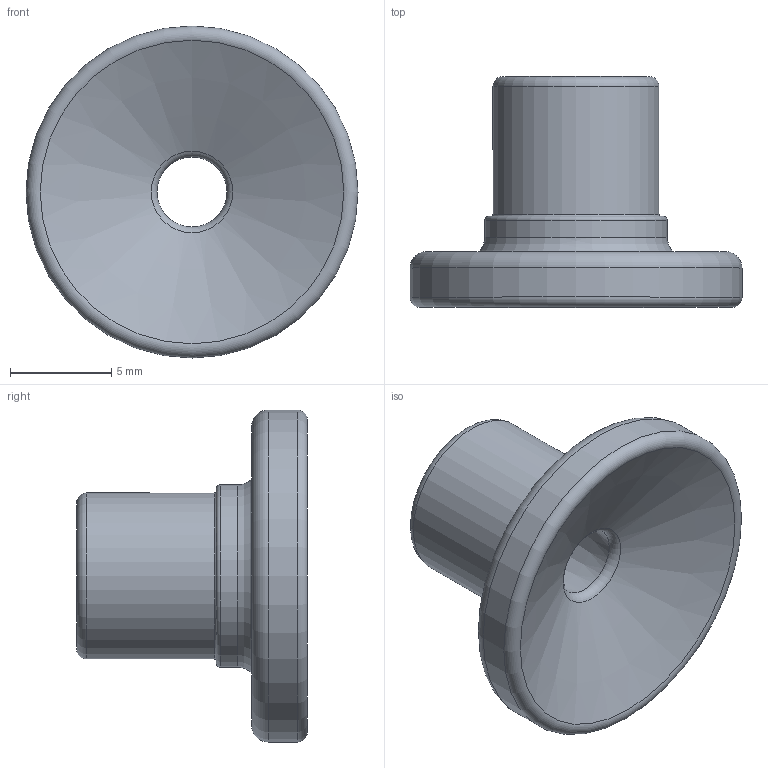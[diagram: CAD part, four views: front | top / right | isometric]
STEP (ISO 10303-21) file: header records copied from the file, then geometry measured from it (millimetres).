
FILE_DESCRIPTION (( 'STEP AP203' ), '1' );
FILE_NAME ('9 16-3 -- A.STEP', '2022-02-03T13:07:04', ( '' ), ( '' ), 'SwSTEP 2.0', 'SolidWorks 2021', '' );
FILE_SCHEMA (( 'CONFIG_CONTROL_DESIGN' ));
Length unit declared in the file: millimetre
Products named in the file (1): 9 16-3 -- A
Bounding box: 16.39 x 11.39 x 16.39 mm (x, y, z)
Volume: 684 mm3; surface area: 887.7 mm2
Topology: 1 solids, 1 shells, 21 faces, 39 edges, 21 vertices
Faces by surface type: torus 10, cylinder 4, cone 4, plane 3
Full cylindrical faces by diameter (mm): 3.698 x1, 8.195 x1, 8.994 x1, 16.39 x1
Entity records: 505 total; most frequent: DIRECTION 86, CARTESIAN_POINT 64, AXIS2_PLACEMENT_3D 43, EDGE_LOOP 42, ORIENTED_EDGE 42, FACE_OUTER_BOUND 35, ADVANCED_FACE 21, EDGE_CURVE 21
